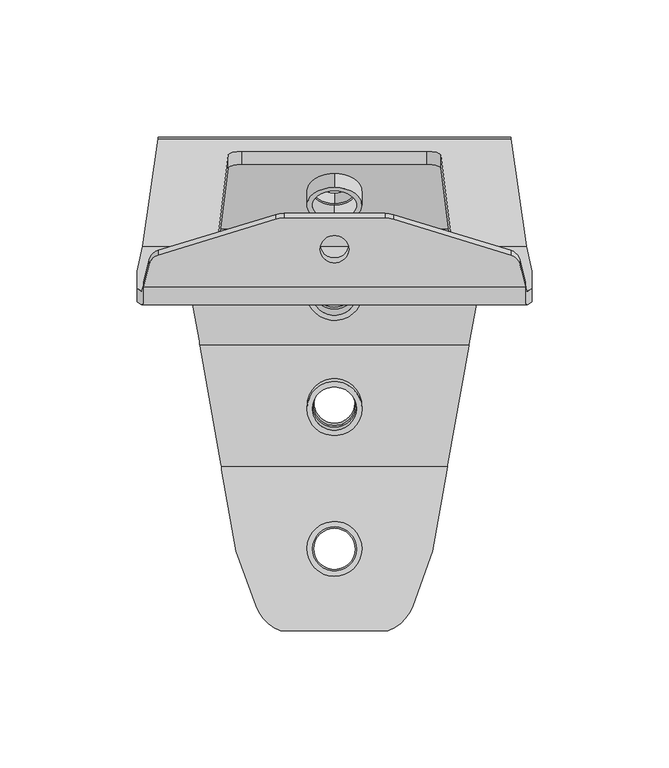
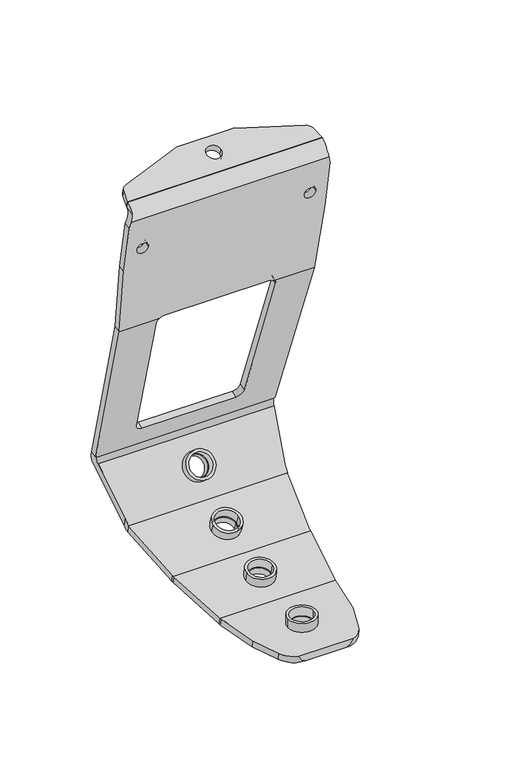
"""IFC4 building model written with IfcOpenShell, lengths in millimetres: proxy geometry, d&b U-Series U3 Vertical Bracket : d&b U-Series U3 Vertical Bracket."""

from ifc_helpers import new_model, si_unit, point, frame, frame_2d, origin, place, context, project, spatial, polyline, circle_curve, ellipse_curve, trimmed, segment, composite_curve, outline, extrude, source, transform, mapped, element, save
from ifc_brep_helpers import plane_surface, cylinder_surface, revolved_surface, advanced_brep


def communication_devices_d0d5bee1(model_context):
    return source(origin(), model_context, "Body", "SolidModel", [
        extrude(outline(composite_curve([segment(trimmed(circle_curve(frame_2d((0.0, -5.0)), 5.0), [point((4.8756643, -6.1081056))], [point((1.5385005, -9.7574169))], False, "CARTESIAN"), True, "CONTINUOUS"), segment(polyline([(1.5385005, -9.7574169), (-41.2545364, -23.5962514)]), True, "CONTINUOUS"), segment(trimmed(circle_curve(frame_2d((-44.3315373, -14.0814173)), 10.0), [point((-41.2545364, -23.5962514))], [point((-44.3315373, -24.0814174))], False, "CARTESIAN"), True, "CONTINUOUS"), segment(polyline([(-44.3315373, -24.0814174), (-81.1780379, -24.0814174)]), True, "CONTINUOUS"), segment(trimmed(circle_curve(frame_2d((-81.1780379, -14.0814173)), 10.0), [point((-81.1780379, -24.0814174))], [point((-84.2550388, -23.5962514))], False, "CARTESIAN"), True, "CONTINUOUS"), segment(polyline([(-84.2550388, -23.5962514), (-127.0480757, -9.7574169)]), True, "CONTINUOUS"), segment(trimmed(circle_curve(frame_2d((-125.5095752, -5.0)), 5.0), [point((-127.0480757, -9.7574169))], [point((-130.3852395, -6.1081056))], False, "CARTESIAN"), True, "CONTINUOUS"), segment(polyline([(-130.3852395, -6.1081056), (-132.3478965, 2.527585), (6.8383213, 2.527585), (4.8756643, -6.1081056)]), True, "CONTINUOUS")], self_intersect=False), holes=[composite_curve([segment(trimmed(circle_curve(frame_2d((-62.7547876, -12.0578535)), 5.25), [point((-57.5047876, -12.0578535))], [point((-68.0047876, -12.0578535))], True, "CARTESIAN"), True, "CONTINUOUS"), segment(trimmed(circle_curve(frame_2d((-62.7547876, -12.0578535)), 5.25), [point((-68.0047876, -12.0578535))], [point((-57.5047876, -12.0578535))], True, "CARTESIAN"), True, "CONTINUOUS")], self_intersect=False)]), frame((-62.7547876, 122.097226, 54.0018563), z_axis=(0.0, -0.3417216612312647, 0.9398012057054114), x_axis=(-1.0, 0.0, 0.0)), (0.0, 0.0, 1.0), 5.0),
        advanced_brep(
        [(41.1821269, 53.0970843, -232.7908637), (-41.1821269, 53.0970843, -232.7908637), (-41.2598718, 53.9586794, -232.6389413), (-49.0622799, 97.4134332, -224.9766957), (-49.1400247, 98.2750283, -224.8247733), (49.1400247, 98.2750283, -224.8247733), (49.0622799, 97.4134332, -224.9766957), (41.2598718, 53.9586794, -232.6389413), (7.5, 75.7127085, -228.803119), (-7.5, 75.7127085, -228.803119), (-49.2165885, 99.0971528, -224.5255444), (-56.8594472, 139.7133091, -209.7424725), (-57.1198307, 142.2312079, -208.8260323), (57.1198307, 142.2312079, -208.8260323), (56.8594472, 139.7133091, -209.7424725), (49.2165885, 99.0971528, -224.5255444), (-7.4839243, 119.4272445, -217.1259962), (7.4839263, 119.2065263, -217.206331), (-57.3223731, 143.9535521, -206.7734224), (-63.6653039, 170.2363075, -175.4508543), (63.6653039, 170.2363075, -175.4508543), (57.3223731, 143.9535521, -206.7734224), (0.0, 161.8211814, -185.479611), (0.0, 152.1793673, -196.9702776), (-64.3689642, 172.0864282, -165.9328082), (64.3689642, 172.0864282, -165.9328082), (-69.9756834, 132.8787164, -45.263879), (-41.501088, 132.8787164, -45.263879), (-42.8003682, 133.9735247, -48.6333526), (-38.8273396, 165.904901, -146.9080237), (-33.8234974, 167.4511733, -151.6669605), (33.8234974, 167.4511733, -151.6669605), (38.8273396, 165.904901, -146.9080237), (42.807065, 133.9197021, -48.4677035), (41.5029675, 132.8787164, -45.263879), (69.9756834, 132.8787164, -45.263879), (-70.7531987, 116.5107486, 47.563479), (70.7531987, 116.5107486, 47.563479), (72.0, 117.4297102, 42.351789), (72.0, 123.7360763, 6.5866096), (37.8040599, 132.5921333, -43.6385858), (-37.8035084, 132.5921333, -43.6385858), (-72.0, 123.7360763, 6.5866096), (-72.0, 117.4297102, 42.351789), (-55.85, 121.1313536, 21.3587259), (-64.15, 121.1313536, 21.3587259), (55.85, 121.1313536, 21.3587259), (64.15, 121.1313536, 21.3587259), (-69.5931089, 119.7246867, 53.130183), (69.5931089, 119.7246867, 53.130183), (69.5931089, 118.014586, 57.8286461), (-69.5931089, 118.014586, 57.8286461), (-69.5931089, 112.008297, 51.7695753), (-70.7531987, 111.5867099, 46.6952381), (70.7531987, 111.5867099, 46.6952381), (69.5931089, 112.008297, 51.7695753), (-72.0, 112.5056714, 41.4835481), (-72.0, 118.8120375, 5.7183687), (-69.9756834, 127.9546776, -46.1321199), (-69.9600814, 128.0153909, -46.4764422), (-41.1495998, 128.0153909, -46.4764422), (-37.8035084, 127.7901179, -45.1988553), (37.8040599, 127.7901179, -45.1988553), (41.1513049, 128.0153909, -46.4764422), (69.9600814, 128.0153909, -46.4764422), (69.9756834, 127.9546776, -46.1321199), (72.0, 118.8120375, 5.7183687), (72.0, 112.5056714, 41.4835481), (-64.15, 116.2073149, 20.490485), (-55.85, 116.2073149, 20.490485), (64.15, 116.2073149, 20.490485), (55.85, 116.2073149, 20.490485), (-63.3663002, 167.3311456, -167.4778932), (63.3663002, 167.3311456, -167.4778932), (63.3464959, 167.1139981, -166.8095818), (64.3689642, 167.1139981, -166.8095818), (42.807065, 129.1644195, -50.0127884), (38.8273396, 161.1496184, -148.4531087), (33.8234974, 162.6958907, -153.2120454), (-33.8234974, 162.6958907, -153.2120454), (-38.8273396, 161.1496184, -148.4531087), (-42.8003682, 129.2182421, -50.1784375), (-64.3689642, 167.1139981, -166.8095818), (-63.3464959, 167.1139981, -166.8095818), (-63.0144701, 166.4060853, -172.2369162), (63.0144701, 166.4060853, -172.2369162), (-57.3223731, 142.8201441, -200.3455463), (-56.9039648, 139.2621578, -204.5857893), (56.9039648, 139.2621578, -204.5857893), (57.3223731, 142.8201441, -200.3455463), (0.0, 148.349145, -193.7563396), (0.0, 157.9909592, -182.2656729), (-56.8594472, 138.8316742, -204.7424725), (-49.2165885, 98.2155179, -219.5255444), (-49.1011523, 96.9759898, -219.9766957), (49.1011523, 96.9759898, -219.9766957), (49.2165885, 98.2155179, -219.5255444), (56.8594472, 138.8316742, -204.7424725), (7.4839263, 117.4964256, -212.5078679), (-7.4839243, 117.7171437, -212.4275331), (-49.0622799, 96.5451923, -220.052657), (-41.2598718, 53.0904385, -227.7149025), (-41.2209994, 52.6596409, -227.7908637), (41.2209994, 52.6596409, -227.7908637), (41.2598718, 53.0904385, -227.7149025), (49.0622799, 96.5451923, -220.052657), (-7.5, 74.8444676, -223.8790802), (7.5, 74.8444676, -223.8790802), (-41.1055632, 51.3405627, -227.7908637), (-35.8394989, 21.5592844, -227.7908637), (-28.6219344, 1.7291891, -227.7908637), (-19.5813606, -7.3403591, -227.7908637), (19.5813606, -7.3403591, -227.7908637), (28.6219344, 1.7291891, -227.7908637), (35.8394989, 21.5592844, -227.7908637), (41.1055632, 51.3405627, -227.7908637), (-7.4839263, 22.6268699, -227.7908637), (7.4839243, 22.3919865, -227.7908637), (-14.5521077, -7.3403591, -232.7908637), (14.5521077, -7.3403591, -232.7908637), (41.1055632, 52.2221976, -232.7908637), (35.8394989, 22.4409193, -232.7908637), (28.6219344, 2.610824, -232.7908637), (-28.6219344, 2.610824, -232.7908637), (-35.8394989, 22.4409193, -232.7908637), (-41.1055632, 52.2221976, -232.7908637), (7.4839243, 22.3919865, -232.7908637), (-7.4839263, 22.6268699, -232.7908637)],
        [
            (0, 1),
            (1, 2),
            (2, 3),
            (3, 4),
            (4, 5),
            (5, 6),
            (6, 7),
            (7, 0),
            (8, 9, circle_curve(frame((0.0, 75.7127085, -228.803119), z_axis=(0.0, -0.17364817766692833, 0.9848077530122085), x_axis=(1.0, 0.0, 0.0)), 7.5)),
            (9, 8, circle_curve(frame((0.0, 75.7127085, -228.803119), z_axis=(0.0, -0.17364817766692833, 0.9848077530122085), x_axis=(1.0, 0.0, 0.0)), 7.5)),
            (4, 10),
            (10, 11),
            (11, 12),
            (12, 13),
            (13, 14),
            (14, 15),
            (15, 5),
            (16, 17, circle_curve(frame((0.0, 119.3168262, -217.1661852), z_axis=(0.0, -0.3420201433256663, 0.9396926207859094), x_axis=(-0.9998772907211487, 0.014720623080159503, 0.005357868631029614)), 7.4848467)),
            (17, 16, circle_curve(frame((0.0, 119.3168262, -217.1661852), z_axis=(0.0, -0.3420201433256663, 0.9396926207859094), x_axis=(-0.9998772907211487, 0.014720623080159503, 0.005357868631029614)), 7.4848467)),
            (12, 18),
            (18, 19),
            (19, 20),
            (20, 21),
            (21, 13),
            (22, 23, circle_curve(frame((0.0, 157.0002743, -191.2249443), z_axis=(0.0, -0.7660444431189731, 0.642787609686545), x_axis=(0.0, 0.6427876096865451, 0.7660444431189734)), 7.5)),
            (23, 22, circle_curve(frame((0.0, 157.0002743, -191.2249443), z_axis=(0.0, -0.7660444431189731, 0.642787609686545), x_axis=(0.0, 0.6427876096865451, 0.7660444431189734)), 7.5)),
            (19, 24, ellipse_curve(frame((-62.3636363, 162.575863, -169.0229782), z_axis=(0.9801059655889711, 0.19545964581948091, 0.03446480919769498), x_axis=(0.19847492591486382, -0.965215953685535, -0.17019361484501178)), 10.2029784, 10.0)),
            (24, 25),
            (25, 20, ellipse_curve(frame((62.3636363, 162.575863, -169.0229782), z_axis=(-0.9801059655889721, 0.1954596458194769, 0.03446480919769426), x_axis=(0.19847492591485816, 0.9652159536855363, 0.17019361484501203)), 10.2029784, 10.0)),
            (24, 26),
            (26, 27),
            (27, 28, circle_curve(frame((-37.8035084, 133.9187734, -48.4648455), z_axis=(0.0, -0.9510565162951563, -0.30901699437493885), x_axis=(0.0, -0.3090169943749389, 0.9510565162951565)), 5.0)),
            (28, 29),
            (29, 30, circle_curve(frame((-33.8234974, 165.904901, -146.9080237), z_axis=(0.0, -0.9510565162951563, -0.30901699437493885), x_axis=(0.0, -0.3090169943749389, 0.9510565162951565)), 5.0038422)),
            (30, 31),
            (31, 32, circle_curve(frame((33.8234974, 165.904901, -146.9080237), z_axis=(0.0, -0.9510565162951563, -0.30901699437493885), x_axis=(0.0, -0.3090169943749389, 0.9510565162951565)), 5.0038422)),
            (32, 33),
            (33, 34, circle_curve(frame((37.8040599, 133.9197021, -48.4677035), z_axis=(0.0, -0.9510565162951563, -0.30901699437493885), x_axis=(0.0, -0.3090169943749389, 0.9510565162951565)), 5.0030051)),
            (34, 35),
            (35, 25),
            (36, 37),
            (37, 38),
            (38, 39),
            (39, 35),
            (34, 40, ellipse_curve(frame((37.8040599, 133.4694339, -48.6140045), z_axis=(0.0, -0.9848077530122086, -0.17364817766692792), x_axis=(0.0, -0.17364817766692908, 0.9848077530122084)), 5.0521725, 5.0030051)),
            (40, 41),
            (41, 27, ellipse_curve(frame((-37.8035084, 133.4689069, -48.611016), z_axis=(0.0, -0.9848077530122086, -0.17364817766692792), x_axis=(0.0, -0.17364817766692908, 0.9848077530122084)), 5.0491379, 5.0)),
            (26, 42),
            (42, 43),
            (43, 36),
            (44, 45, circle_curve(frame((-60.0, 121.1313536, 21.3587259), z_axis=(0.0, -0.9848077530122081, -0.1736481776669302), x_axis=(1.0, 0.0, 0.0)), 4.15)),
            (45, 44, circle_curve(frame((-60.0, 121.1313536, 21.3587259), z_axis=(0.0, -0.9848077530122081, -0.1736481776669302), x_axis=(1.0, 0.0, 0.0)), 4.15)),
            (46, 47, circle_curve(frame((60.0, 121.1313536, 21.3587259), z_axis=(0.0, -0.9848077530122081, -0.1736481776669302), x_axis=(-1.0, 0.0, 0.0)), 4.15)),
            (47, 46, circle_curve(frame((60.0, 121.1313536, 21.3587259), z_axis=(0.0, -0.9848077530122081, -0.1736481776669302), x_axis=(-1.0, 0.0, 0.0)), 4.15)),
            (36, 48, ellipse_curve(frame((-70.7531987, 121.4347874, 48.4317199), z_axis=(-0.9733513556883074, -0.03982080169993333, 0.22583498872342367), x_axis=(-0.22931885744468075, 0.16902068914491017, -0.9585639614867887)), 5.1368912, 5.0)),
            (48, 49),
            (49, 37, ellipse_curve(frame((70.7531987, 121.4347874, 48.4317199), z_axis=(0.9733513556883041, -0.039820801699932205, 0.22583498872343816), x_axis=(-0.22931885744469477, -0.16902068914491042, 0.9585639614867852)), 5.1368912, 5.0)),
            (50, 51),
            (51, 52, circle_curve(frame((-69.5931089, 121.4347874, 48.4317199), z_axis=(1.0, 0.0, 0.0), x_axis=(0.0, 0.9848077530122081, 0.1736481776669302)), 10.0)),
            (52, 53, ellipse_curve(frame((-70.7531987, 121.4347874, 48.4317199), z_axis=(0.9733513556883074, 0.03982080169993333, -0.22583498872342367), x_axis=(0.22931885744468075, -0.16902068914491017, 0.9585639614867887)), 10.2737824, 10.0)),
            (53, 54),
            (54, 55, ellipse_curve(frame((70.7531987, 121.4347874, 48.4317199), z_axis=(-0.9733513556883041, 0.039820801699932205, -0.22583498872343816), x_axis=(0.22931885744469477, 0.16902068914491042, -0.9585639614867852)), 10.2737824, 10.0)),
            (55, 50, circle_curve(frame((69.5931089, 121.4347874, 48.4317199), z_axis=(-1.0, 0.0, 0.0), x_axis=(0.0, 0.9848077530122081, 0.1736481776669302)), 10.0)),
            (53, 56),
            (56, 57),
            (57, 58),
            (58, 59),
            (59, 60),
            (60, 61, ellipse_curve(frame((-37.8035084, 128.6668915, -50.1712854), z_axis=(0.0, 0.9848077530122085, 0.17364817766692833), x_axis=(0.0, -0.17364817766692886, 0.9848077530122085)), 5.0491379, 5.0)),
            (61, 62),
            (62, 63, ellipse_curve(frame((37.8040599, 128.6674184, -50.1742739), z_axis=(0.0, 0.9848077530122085, 0.17364817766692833), x_axis=(0.0, -0.17364817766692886, 0.9848077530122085)), 5.0521725, 5.0030051)),
            (63, 64),
            (64, 65),
            (65, 66),
            (66, 67),
            (67, 54),
            (68, 69, circle_curve(frame((-60.0, 116.2073149, 20.490485), z_axis=(0.0, 0.9848077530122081, 0.1736481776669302), x_axis=(1.0, 0.0, 0.0)), 4.15)),
            (69, 68, circle_curve(frame((-60.0, 116.2073149, 20.490485), z_axis=(0.0, 0.9848077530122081, 0.1736481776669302), x_axis=(1.0, 0.0, 0.0)), 4.15)),
            (70, 71, circle_curve(frame((60.0, 116.2073149, 20.490485), z_axis=(0.0, 0.9848077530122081, 0.1736481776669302), x_axis=(-1.0, 0.0, 0.0)), 4.15)),
            (71, 70, circle_curve(frame((60.0, 116.2073149, 20.490485), z_axis=(0.0, 0.9848077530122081, 0.1736481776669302), x_axis=(-1.0, 0.0, 0.0)), 4.15)),
            (72, 73),
            (73, 74),
            (74, 75),
            (75, 64),
            (63, 76, circle_curve(frame((37.8040599, 129.1644195, -50.0127884), z_axis=(0.0, 0.9510565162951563, 0.30901699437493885), x_axis=(0.0, -0.3090169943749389, 0.9510565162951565)), 5.0030051)),
            (76, 77),
            (77, 78, circle_curve(frame((33.8234974, 161.1496184, -148.4531087), z_axis=(0.0, 0.9510565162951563, 0.30901699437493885), x_axis=(0.0, -0.3090169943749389, 0.9510565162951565)), 5.0038422)),
            (78, 79),
            (79, 80, circle_curve(frame((-33.8234974, 161.1496184, -148.4531087), z_axis=(0.0, 0.9510565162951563, 0.30901699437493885), x_axis=(0.0, -0.3090169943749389, 0.9510565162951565)), 5.0038422)),
            (80, 81),
            (81, 60, circle_curve(frame((-37.8035084, 129.1634909, -50.0099304), z_axis=(0.0, 0.9510565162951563, 0.30901699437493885), x_axis=(0.0, -0.3090169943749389, 0.9510565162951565)), 5.0)),
            (59, 82),
            (82, 83),
            (83, 72),
            (72, 84, ellipse_curve(frame((-62.3636363, 162.575863, -169.0229782), z_axis=(-0.9801059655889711, -0.19545964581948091, -0.03446480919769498), x_axis=(-0.19847492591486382, 0.965215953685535, 0.17019361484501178)), 5.1014892, 5.0)),
            (84, 85),
            (85, 73, ellipse_curve(frame((62.3636363, 162.575863, -169.0229782), z_axis=(0.9801059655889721, -0.1954596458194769, -0.03446480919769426), x_axis=(-0.19847492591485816, -0.9652159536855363, -0.17019361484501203)), 5.1014892, 5.0)),
            (84, 86),
            (86, 87),
            (87, 88),
            (88, 89),
            (89, 85),
            (90, 91, circle_curve(frame((0.0, 153.1700521, -188.0110062), z_axis=(0.0, 0.7660444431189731, -0.642787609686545), x_axis=(0.0, 0.6427876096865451, 0.7660444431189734)), 7.5)),
            (91, 90, circle_curve(frame((0.0, 153.1700521, -188.0110062), z_axis=(0.0, 0.7660444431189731, -0.642787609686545), x_axis=(0.0, 0.6427876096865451, 0.7660444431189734)), 7.5)),
            (87, 92),
            (92, 93),
            (93, 94),
            (94, 95),
            (95, 96),
            (96, 97),
            (97, 88),
            (98, 99, circle_curve(frame((0.0, 117.6067255, -212.4677221), z_axis=(0.0, 0.3420201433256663, -0.9396926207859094), x_axis=(-0.9998772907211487, 0.014720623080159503, 0.005357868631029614)), 7.4848467)),
            (99, 98, circle_curve(frame((0.0, 117.6067255, -212.4677221), z_axis=(0.0, 0.3420201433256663, -0.9396926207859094), x_axis=(-0.9998772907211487, 0.014720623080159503, 0.005357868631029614)), 7.4848467)),
            (94, 100),
            (100, 101),
            (101, 102),
            (102, 103),
            (103, 104),
            (104, 105),
            (105, 95),
            (106, 107, circle_curve(frame((0.0, 74.8444676, -223.8790802), z_axis=(0.0, 0.17364817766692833, -0.9848077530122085), x_axis=(1.0, 0.0, 0.0)), 7.5)),
            (107, 106, circle_curve(frame((0.0, 74.8444676, -223.8790802), z_axis=(0.0, 0.17364817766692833, -0.9848077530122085), x_axis=(1.0, 0.0, 0.0)), 7.5)),
            (102, 108),
            (108, 109),
            (109, 110),
            (110, 111, ellipse_curve(frame((-14.5521077, 7.0094052, -227.7908637), z_axis=(0.0, 0.0, 1.0), x_axis=(0.0, -0.9999999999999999, 0.0)), 15.2313992, 15.0)),
            (111, 112),
            (112, 113, ellipse_curve(frame((14.5521077, 7.0094052, -227.7908637), z_axis=(0.0, 0.0, 1.0), x_axis=(0.0, -0.9999999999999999, 0.0)), 15.2313992, 15.0)),
            (113, 114),
            (114, 115),
            (115, 103),
            (116, 117, circle_curve(frame((0.0, 22.5094912, -227.7908637), z_axis=(0.0, 0.0, -1.0), x_axis=(0.999877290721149, -0.015665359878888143, 0.0)), 7.4848467)),
            (117, 116, circle_curve(frame((0.0, 22.5094912, -227.7908637), z_axis=(0.0, 0.0, -1.0), x_axis=(0.999877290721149, -0.015665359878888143, 0.0)), 7.4848467)),
            (111, 118, ellipse_curve(frame((-14.5521077, -7.3403591, -146.4093065), z_axis=(0.0, -1.0, 0.0), x_axis=(0.0, 0.0, 1.0)), 86.3815572, 15.0)),
            (118, 119),
            (119, 112, ellipse_curve(frame((14.5521077, -7.3403591, -146.4093065), z_axis=(0.0, -1.0, 0.0), x_axis=(0.0, 0.0, 1.0)), 86.3815572, 15.0)),
            (0, 120),
            (120, 121),
            (121, 122),
            (122, 119, ellipse_curve(frame((14.5521077, 7.8910401, -232.7908637), z_axis=(0.0, 0.0, -1.0), x_axis=(0.0, -1.0, 0.0)), 15.2313992, 15.0)),
            (118, 123, ellipse_curve(frame((-14.5521077, 7.8910401, -232.7908637), z_axis=(0.0, 0.0, -1.0), x_axis=(0.0, -1.0, 0.0)), 15.2313992, 15.0)),
            (123, 124),
            (124, 125),
            (125, 1),
            (126, 127, circle_curve(frame((0.0, 22.5094912, -232.7908637), z_axis=(0.0, 0.0, 1.0), x_axis=(0.999877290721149, -0.015665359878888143, 0.0)), 7.4848467)),
            (127, 126, circle_curve(frame((0.0, 22.5094912, -232.7908637), z_axis=(0.0, 0.0, 1.0), x_axis=(0.999877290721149, -0.015665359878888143, 0.0)), 7.4848467)),
            (74, 25),
            (25, 75),
            (24, 83),
            (82, 24),
            (122, 113),
            (121, 114),
            (120, 115),
            (7, 104),
            (6, 105),
            (15, 96),
            (14, 97),
            (21, 89),
            (108, 125),
            (124, 109),
            (123, 110),
            (92, 11),
            (10, 93),
            (3, 100),
            (2, 101),
            (106, 9),
            (8, 107),
            (116, 127),
            (126, 117),
            (98, 17),
            (16, 99),
            (56, 43),
            (42, 57),
            (26, 58),
            (50, 49),
            (48, 51),
            (48, 52),
            (18, 86),
            (35, 65),
            (39, 66),
            (38, 67),
            (49, 55),
            (90, 23),
            (22, 91),
            (79, 30),
            (29, 80),
            (28, 81),
            (41, 61),
            (40, 62),
            (33, 76),
            (32, 77),
            (31, 78),
            (68, 45),
            (44, 69),
            (70, 47),
            (46, 71),
        ],
        [
            plane_surface(frame((80.0, 53.0970843, -232.7908637), z_axis=(0.0, 0.17364817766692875, -0.9848077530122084), x_axis=(-1.0, 0.0, 0.0))),
            plane_surface(frame((80.0, 98.2750283, -224.8247733), z_axis=(0.0, 0.3420201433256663, -0.9396926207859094), x_axis=(-1.0, 0.0, 0.0))),
            plane_surface(frame((80.0, 142.2312079, -208.8260323), z_axis=(0.0, 0.7660444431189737, -0.6427876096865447), x_axis=(-1.0, 0.0, 0.0))),
            cylinder_surface(frame((-80.0, 162.575863, -169.0229782), z_axis=(1.0, 0.0, 0.0), x_axis=(0.0, 0.9848077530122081, 0.1736481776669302)), 10.0),
            plane_surface(frame((80.0, 172.0864282, -165.9328082), z_axis=(0.0, 0.9510565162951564, 0.30901699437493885), x_axis=(-1.0, 0.0, 0.0))),
            plane_surface(frame((80.0, 132.8787164, -45.263879), z_axis=(0.0, 0.9848077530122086, 0.17364817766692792), x_axis=(-1.0, 0.0, 0.0))),
            revolved_surface(polyline([(-71.93118472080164, 126.35882616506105, 49.29996078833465), (71.9311847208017, 126.35882616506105, 49.29996078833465)]), (-80.0, 121.4347874, 48.4317199), (-1.0, 0.0, 0.0)),
            cylinder_surface(frame((-80.0, 121.4347874, 48.4317199), z_axis=(1.0, 0.0, 0.0), x_axis=(0.0, 0.9848077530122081, 0.1736481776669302)), 10.0),
            plane_surface(frame((80.0, 111.5867099, 46.6952381), z_axis=(0.0, -0.9848077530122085, -0.17364817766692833), x_axis=(-1.0, 0.0, 0.0))),
            plane_surface(frame((80.0, 128.0153909, -46.4764422), z_axis=(0.0, -0.9510565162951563, -0.30901699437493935), x_axis=(-1.0, 0.0, 0.0))),
            revolved_surface(polyline([(-63.37615399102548, 167.49990176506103, -168.15473731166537), (63.37615399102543, 167.49990176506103, -168.15473731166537)]), (-80.0, 162.575863, -169.0229782), (-1.0, 0.0, 0.0)),
            plane_surface(frame((80.0, 166.4060853, -172.2369162), z_axis=(0.0, -0.7660444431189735, 0.6427876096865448), x_axis=(-1.0, 0.0, 0.0))),
            plane_surface(frame((80.0, 139.2621578, -204.5857893), z_axis=(0.0, -0.342020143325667, 0.9396926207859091), x_axis=(-1.0, 0.0, 0.0))),
            plane_surface(frame((80.0, 96.9759898, -219.9766957), z_axis=(0.0, -0.17364817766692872, 0.9848077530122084), x_axis=(-1.0, 0.0, 0.0))),
            plane_surface(frame((80.0, 52.6596409, -227.7908637), z_axis=(0.0, 0.0, 1.0), x_axis=(-1.0, 0.0, 0.0))),
            plane_surface(frame((80.0, -7.3403591, -227.7908637), z_axis=(0.0, -1.0, 0.0), x_axis=(-1.0, 0.0, 0.0))),
            plane_surface(frame((80.0, -7.3403591, -232.7908637), z_axis=(0.0, 0.0, -1.0), x_axis=(-1.0, 0.0, 0.0))),
            plane_surface(frame((41.2598718, 46.1132463, -188.145279), z_axis=(0.0, 0.17364817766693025, -0.9848077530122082), x_axis=(-0.08851400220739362, -0.9809423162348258, -0.17296659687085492))),
            cylinder_surface(frame((14.5521077, 1.408736, -196.0278903), z_axis=(0.0, -0.1736481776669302, 0.9848077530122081), x_axis=(1.0, 0.0, 0.0)), 15.0),
            plane_surface(frame((28.6219344, 6.1345602, -252.7749645), z_axis=(0.9379884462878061, -0.3413998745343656, -0.06019800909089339), x_axis=(0.0, -0.1736481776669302, 0.9848077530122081))),
            plane_surface(frame((35.8394989, 25.3667049, -249.3838185), z_axis=(0.9842600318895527, -0.17404144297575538, -0.030688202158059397), x_axis=(0.0, -0.1736481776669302, 0.9848077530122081))),
            plane_surface(frame((41.1055632, 54.2499678, -244.2909199), z_axis=(0.9960749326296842, -0.08716927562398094, -0.01537029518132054), x_axis=(0.0, -0.1736481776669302, 0.9848077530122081))),
            plane_surface(frame((41.2598718, 55.9600685, -243.989383), z_axis=(0.9847238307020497, -0.17147812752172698, -0.03023622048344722), x_axis=(0.0, -0.1736481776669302, 0.9848077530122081))),
            plane_surface(frame((49.0622799, 99.4148223, -236.3271375), z_axis=(0.9960749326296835, -0.08716927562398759, -0.01537029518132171), x_axis=(0.0, -0.1736481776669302, 0.9848077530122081))),
            plane_surface(frame((49.2165885, 101.124923, -236.0256006), z_axis=(0.9842600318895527, -0.17404144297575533, -0.030688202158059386), x_axis=(0.0, -0.1736481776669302, 0.9848077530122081))),
            plane_surface(frame((56.8594472, 143.0444065, -228.6340647), z_axis=(0.9951668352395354, -0.09670676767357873, -0.017052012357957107), x_axis=(0.0, -0.1736481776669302, 0.9848077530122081))),
            plane_surface(frame((57.3223731, 147.664528, -227.8194126), z_axis=(0.9801059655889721, -0.1954596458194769, -0.03446480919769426), x_axis=(0.0, -0.1736481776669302, 0.9848077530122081))),
            plane_surface(frame((-41.1055632, 54.2499678, -244.2909199), z_axis=(-0.984260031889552, -0.17404144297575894, -0.03068820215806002), x_axis=(0.0, -0.1736481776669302, 0.9848077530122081))),
            plane_surface(frame((-35.8394989, 25.3667049, -249.3838185), z_axis=(-0.9379884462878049, -0.3413998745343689, -0.06019800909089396), x_axis=(0.0, -0.1736481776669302, 0.9848077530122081))),
            cylinder_surface(frame((-14.5521077, -32.1564861, -5.6700561), z_axis=(0.0, -0.1736481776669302, 0.9848077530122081), x_axis=(-1.0, 0.0, 0.0)), 15.0),
            plane_surface(frame((-56.8594472, 143.0444065, -228.6340647), z_axis=(-0.984260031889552, -0.17404144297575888, -0.030688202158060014), x_axis=(0.0, -0.1736481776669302, 0.9848077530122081))),
            plane_surface(frame((-49.2165885, 101.124923, -236.0256006), z_axis=(-0.9960749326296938, -0.08716927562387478, -0.01537029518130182), x_axis=(0.0, -0.1736481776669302, 0.9848077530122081))),
            plane_surface(frame((-49.0622799, 99.4148223, -236.3271375), z_axis=(-0.9847238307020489, -0.17147812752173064, -0.030236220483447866), x_axis=(0.0, -0.1736481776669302, 0.9848077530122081))),
            plane_surface(frame((-41.2598718, 55.9600685, -243.989383), z_axis=(-0.9960749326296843, -0.08716927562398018, -0.015370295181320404), x_axis=(0.0, -0.1736481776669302, 0.9848077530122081))),
            revolved_surface(polyline([(7.5, 75.7127084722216, -228.8031190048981), (7.5, 74.84446757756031, -223.87908020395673)]), (0.0, 73.9762267, -218.9550415), (0.0, 0.17364817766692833, -0.9848077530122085)),
            revolved_surface(polyline([(7.483928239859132, 22.39223838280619, -232.7908637), (7.483928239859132, 22.39223838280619, -227.7908637)]), (0.0, 22.5094912, -222.7908637), (0.0, 0.0, -1.0)),
            revolved_surface(polyline([(-7.483928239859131, 119.42700786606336, -217.1260823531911), (-7.483928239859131, 117.71690712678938, -212.42761918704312)]), (0.0, 115.8966248, -207.7692589), (0.0, 0.3420201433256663, -0.9396926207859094)),
            plane_surface(frame((-72.0, 184.2669181, 54.136992), z_axis=(-1.0, 0.0, 0.0), x_axis=(0.0, -0.9848077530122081, -0.1736481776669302))),
            plane_surface(frame((-72.0, 190.5732842, 18.3718126), z_axis=(-0.9992616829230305, 0.006671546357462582, -0.03783621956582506), x_axis=(0.0, -0.9848077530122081, -0.1736481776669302))),
            plane_surface(frame((-69.9756834, 199.7159243, -33.4786759), z_axis=(-0.9990058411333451, 0.007741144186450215, -0.043902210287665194), x_axis=(0.0, -0.9848077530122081, -0.1736481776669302))),
            plane_surface(frame((80.0, 119.7246867, 53.130183), z_axis=(0.0, 0.9396926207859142, 0.3420201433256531), x_axis=(-1.0, 0.0, 0.0))),
            plane_surface(frame((-69.5931089, 180.8354962, 73.5975528), z_axis=(-1.0, 0.0, 0.0), x_axis=(0.0, -0.9848077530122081, -0.1736481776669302))),
            plane_surface(frame((-69.5931089, 182.4929062, 64.1979136), z_axis=(-0.9733513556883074, -0.03982080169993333, 0.22583498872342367), x_axis=(0.0, -0.9848077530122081, -0.1736481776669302))),
            plane_surface(frame((-68.1591463, 200.3655248, -218.5268049), z_axis=(-0.9801059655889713, -0.19545964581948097, -0.034464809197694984), x_axis=(0.0, -0.1736481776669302, 0.9848077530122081))),
            plane_surface(frame((-57.3223731, 147.664528, -227.8194126), z_axis=(-0.9951668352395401, -0.09670676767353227, -0.017052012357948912), x_axis=(0.0, -0.1736481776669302, 0.9848077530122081))),
            plane_surface(frame((64.3689642, 221.5337837, -157.2139053), z_axis=(0.9990058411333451, 0.007741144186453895, -0.043902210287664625), x_axis=(0.0, -0.9848077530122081, -0.1736481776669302))),
            plane_surface(frame((69.9756834, 199.7159243, -33.4786759), z_axis=(0.9992616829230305, 0.006671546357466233, -0.037836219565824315), x_axis=(0.0, -0.9848077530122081, -0.1736481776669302))),
            plane_surface(frame((72.0, 190.5732842, 18.3718126), z_axis=(1.0, 0.0, 0.0), x_axis=(0.0, -0.9848077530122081, -0.1736481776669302))),
            plane_surface(frame((72.0, 184.2669181, 54.136992), z_axis=(0.9733513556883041, -0.039820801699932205, 0.22583498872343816), x_axis=(0.0, -0.9848077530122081, -0.1736481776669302))),
            plane_surface(frame((69.5931089, 182.4929062, 64.1979136), z_axis=(1.0, 0.0, 0.0), x_axis=(0.0, -0.9848077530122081, -0.1736481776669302))),
            revolved_surface(polyline([(0.0, 161.82118141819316, -185.4796109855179), (0.0, 157.99095915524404, -182.2656728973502)]), (0.0, 149.3398299, -184.7970682), (0.0, 0.7660444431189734, -0.6427876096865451)),
            revolved_surface(polyline([(-33.8234974, 164.35862873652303, -142.14908700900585), (-33.8234974, 159.60334612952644, -143.69417198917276)]), (-33.8234974, 156.3943358, -149.9981937), (0.0, 0.9510565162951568, 0.30901699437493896)),
            plane_surface(frame((-38.8273396, 175.4154662, -143.8178538), z_axis=(0.99926165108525, -0.011872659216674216, 0.036540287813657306), x_axis=(0.0, -0.9510565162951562, -0.30901699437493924))),
            revolved_surface(polyline([(-37.8035084, 132.59213331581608, -43.63858584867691), (-37.8035084, 126.45349512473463, -45.63315030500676)]), (-37.8035084, 124.4082083, -51.5550154), (0.0, 0.9510565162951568, 0.30901699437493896)),
            plane_surface(frame((-37.8035084, 141.8842536, -40.6193929), z_axis=(0.0, 0.30901699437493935, -0.9510565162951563), x_axis=(0.0, -0.9510565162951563, -0.30901699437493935))),
            revolved_surface(polyline([(37.8040599, 132.59213333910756, -43.63858581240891), (37.8040599, 126.45269173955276, -45.63341131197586)]), (37.8040599, 124.4091369, -51.5578734), (0.0, 0.9510565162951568, 0.30901699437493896)),
            plane_surface(frame((42.807065, 143.4302672, -45.3775335), z_axis=(-0.9992616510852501, -0.011872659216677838, 0.03654028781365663), x_axis=(0.0, -0.9510565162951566, -0.30901699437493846))),
            revolved_surface(polyline([(33.8234974, 164.35862873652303, -142.14908700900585), (33.8234974, 159.60334612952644, -143.69417198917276)]), (33.8234974, 156.3943358, -149.9981937), (0.0, 0.9510565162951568, 0.30901699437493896)),
            plane_surface(frame((33.8234974, 176.9617384, -148.5767905), z_axis=(0.0, -0.30901699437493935, 0.9510565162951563), x_axis=(0.0, -0.9510565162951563, -0.30901699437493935))),
            revolved_surface(polyline([(-55.85, 121.13135360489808, 21.35872587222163), (-55.85, 116.20731490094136, 20.49048499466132)]), (-60.0, 111.2832761, 19.6222441), (0.0, 0.9848077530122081, 0.1736481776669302)),
            revolved_surface(polyline([(55.85, 121.1313536, 21.3587259), (55.85, 116.20731489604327, 20.49048502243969)]), (60.0, 121.1313536, 21.3587259), (0.0, 0.9848077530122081, 0.1736481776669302)),
        ],
        [
            (0, [[1, 2, 3, 4, 5, 6, 7, 8], [9, 10]]),
            (1, [[-5, 11, 12, 13, 14, 15, 16, 17], [18, 19]]),
            (2, [[-14, 20, 21, 22, 23, 24], [25, 26]]),
            (3, [[-22, 27, 28, 29]]),
            (4, [[-28, 30, 31, 32, 33, 34, 35, 36, 37, 38, 39, 40]]),
            (5, [[41, 42, 43, 44, -39, 45, 46, 47, -31, 48, 49, 50], [51, 52], [53, 54]]),
            (6, [[-41, 55, 56, 57]]),
            (7, [[58, 59, 60, 61, 62, 63]]),
            (8, [[-61, 64, 65, 66, 67, 68, 69, 70, 71, 72, 73, 74, 75, 76], [77, 78], [79, 80]]),
            (9, [[81, 82, 83, 84, -72, 85, 86, 87, 88, 89, 90, 91, -68, 92, 93, 94]]),
            (10, [[-81, 95, 96, 97]]),
            (11, [[-96, 98, 99, 100, 101, 102], [103, 104]]),
            (12, [[-100, 105, 106, 107, 108, 109, 110, 111], [112, 113]]),
            (13, [[-108, 114, 115, 116, 117, 118, 119, 120], [121, 122]]),
            (14, [[-117, 123, 124, 125, 126, 127, 128, 129, 130, 131], [132, 133]]),
            (15, [[-127, 134, 135, 136]]),
            (16, [[-1, 137, 138, 139, 140, -135, 141, 142, 143, 144], [145, 146]]),
            (17, [[147, 148, -83]]),
            (17, [[149, -93, 150]]),
            (18, [[151, -128, -136, -140]]),
            (19, [[-151, -139, 152, -129]]),
            (20, [[-152, -138, 153, -130]]),
            (21, [[-153, -137, -8, 154, -118, -131]]),
            (22, [[-154, -7, 155, -119]]),
            (23, [[-155, -6, -17, 156, -109, -120]]),
            (24, [[-156, -16, 157, -110]]),
            (25, [[-157, -15, -24, 158, -101, -111]]),
            (26, [[-147, -82, -97, -102, -158, -23, -29]]),
            (27, [[159, -143, 160, -124]]),
            (28, [[-160, -142, 161, -125]]),
            (29, [[-161, -141, -134, -126]]),
            (30, [[162, -12, 163, -106]]),
            (31, [[-163, -11, -4, 164, -114, -107]]),
            (32, [[-164, -3, 165, -115]]),
            (33, [[-159, -123, -116, -165, -2, -144]]),
            (34, [[166, -9, 167, -121]]),
            (34, [[-166, -122, -167, -10]]),
            (35, [[168, -145, 169, -132]]),
            (35, [[-168, -133, -169, -146]]),
            (36, [[170, -18, 171, -112]]),
            (36, [[-170, -113, -171, -19]]),
            (37, [[172, -49, 173, -65]]),
            (38, [[-173, -48, 174, -66]]),
            (39, [[-174, -30, -150, -92, -67]]),
            (40, [[-58, 175, -56, 176]]),
            (41, [[177, -59, -176]]),
            (42, [[-172, -64, -60, -177, -55, -50]]),
            (43, [[-149, -27, -21, 178, -98, -95, -94]]),
            (44, [[-162, -105, -99, -178, -20, -13]]),
            (45, [[179, -73, -84, -148, -40]]),
            (46, [[-179, -44, 180, -74]]),
            (47, [[-180, -43, 181, -75]]),
            (48, [[-181, -42, -57, 182, -62, -76]]),
            (49, [[-182, -175, -63]]),
            (50, [[183, -25, 184, -103]]),
            (50, [[-183, -104, -184, -26]]),
            (51, [[185, -34, 186, -89]]),
            (52, [[-186, -33, 187, -90]]),
            (53, [[-187, -32, -47, 188, -69, -91]]),
            (54, [[-188, -46, 189, -70]]),
            (55, [[-189, -45, -38, 190, -85, -71]]),
            (56, [[-190, -37, 191, -86]]),
            (57, [[-191, -36, 192, -87]]),
            (58, [[-185, -88, -192, -35]]),
            (59, [[193, -51, 194, -77]]),
            (59, [[-193, -78, -194, -52]]),
            (60, [[195, -53, 196, -79]]),
            (60, [[-195, -80, -196, -54]]),
        ],
    ),
        extrude(outline(composite_curve([segment(trimmed(circle_curve(frame_2d((0.0, -10.0)), 10.0), [point((0.0, -20.0))], [point((0.0, 0.0))], False, "CARTESIAN"), True, "CONTINUOUS"), segment(trimmed(circle_curve(frame_2d((0.0, -10.0)), 10.0), [point((0.0, 0.0))], [point((0.0, -20.0))], False, "CARTESIAN"), True, "CONTINUOUS")], self_intersect=False), holes=[composite_curve([segment(trimmed(circle_curve(frame_2d((0.0, -10.0)), 8.0), [point((0.0, -18.0))], [point((0.0, -2.0))], True, "CARTESIAN"), True, "CONTINUOUS"), segment(trimmed(circle_curve(frame_2d((0.0, -10.0)), 8.0), [point((0.0, -2.0))], [point((0.0, -18.0))], True, "CARTESIAN"), True, "CONTINUOUS")], self_intersect=False)]), frame((0.0, 159.5979282, -180.3505618), z_axis=(0.0, -0.7660444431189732, 0.6427876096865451), x_axis=(1.0, 0.0, 0.0)), (0.0, 0.0, 1.0), 7.0),
        extrude(outline(composite_curve([segment(trimmed(circle_curve(frame_2d((0.0, -10.0)), 10.0), [point((1e-07, -20.0))], [point((0.0, 0.0))], False, "CARTESIAN"), True, "CONTINUOUS"), segment(trimmed(circle_curve(frame_2d((0.0, -10.0)), 10.0), [point((0.0, 0.0))], [point((1e-07, -20.0))], False, "CARTESIAN"), True, "CONTINUOUS")], self_intersect=False), holes=[composite_curve([segment(trimmed(circle_curve(frame_2d((0.0, -10.0)), 8.0), [point((0.0, -18.0))], [point((1e-07, -2.0))], True, "CARTESIAN"), True, "CONTINUOUS"), segment(trimmed(circle_curve(frame_2d((0.0, -10.0)), 8.0), [point((1e-07, -2.0))], [point((0.0, -18.0))], True, "CARTESIAN"), True, "CONTINUOUS")], self_intersect=False)]), frame((-9.9987729, 117.7539317, -212.4141434), z_axis=(0.0, -0.3420201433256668, 0.9396926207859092), x_axis=(0.015665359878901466, 0.9395773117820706, 0.3419781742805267)), (0.0, 0.0, 1.0), 7.0),
        extrude(outline(composite_curve([segment(trimmed(circle_curve(frame_2d((0.0, -10.0)), 10.0), [point((0.0, -20.0))], [point((0.0, 0.0))], False, "CARTESIAN"), True, "CONTINUOUS"), segment(trimmed(circle_curve(frame_2d((0.0, -10.0)), 10.0), [point((0.0, 0.0))], [point((0.0, -20.0))], False, "CARTESIAN"), True, "CONTINUOUS")], self_intersect=False), holes=[composite_curve([segment(trimmed(circle_curve(frame_2d((0.0, -10.0)), 8.0), [point((0.0, -18.0))], [point((0.0, -2.0))], True, "CARTESIAN"), True, "CONTINUOUS"), segment(trimmed(circle_curve(frame_2d((0.0, -10.0)), 8.0), [point((0.0, -2.0))], [point((0.0, -18.0))], True, "CARTESIAN"), True, "CONTINUOUS")], self_intersect=False)]), frame((10.0, 74.8444676, -223.8790802), z_axis=(0.0, -0.17364817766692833, 0.9848077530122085), x_axis=(0.0, -0.9848077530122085, -0.17364817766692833)), (0.0, 0.0, 1.0), 7.0),
        extrude(outline(composite_curve([segment(trimmed(circle_curve(frame_2d((0.0, 22.5094912)), 10.0), [point((-9.9987729, 22.6661448))], [point((9.9987729, 22.3528376))], False, "CARTESIAN"), True, "CONTINUOUS"), segment(trimmed(circle_curve(frame_2d((0.0, 22.5094912)), 10.0), [point((9.9987729, 22.3528376))], [point((-9.9987729, 22.6661448))], False, "CARTESIAN"), True, "CONTINUOUS")], self_intersect=False), holes=[composite_curve([segment(trimmed(circle_curve(frame_2d((0.0, 22.5094912)), 8.0), [point((-7.9990183, 22.634814))], [point((7.9990183, 22.3841683))], True, "CARTESIAN"), True, "CONTINUOUS"), segment(trimmed(circle_curve(frame_2d((0.0, 22.5094912)), 8.0), [point((7.9990183, 22.3841683))], [point((-7.9990183, 22.634814))], True, "CARTESIAN"), True, "CONTINUOUS")], self_intersect=False)]), frame((0.0, 0.0, -227.7908637), z_axis=(0.0, 0.0, 1.0), x_axis=(1.0, 0.0, 0.0)), (0.0, 0.0, 1.0), 7.0),
    ])


if __name__ == "__main__":
    model = new_model("IFC4")
    model_context = context("Model", 3, world=origin())
    ifc_project = project(units=[si_unit("LENGTHUNIT", "METRE", prefix="MILLI")], contexts=[model_context])
    site = spatial("IfcSite", under=ifc_project)
    building = spatial("IfcBuilding", under=site)
    placement = place(None, origin())
    communication_devices_shape = communication_devices_d0d5bee1(model_context)
    element("IfcBuildingElementProxy", 1, Name="d&b U-Series U3 Vertical Bracket : d&b U-Series U3 Vertical Bracket", ObjectType="d&b U-Series U3 Vertical Bracket : d&b U-Series U3 Vertical Bracket", at=placement, inside=building, context=model_context, shape_type="MappedRepresentation", body=[
        mapped(communication_devices_shape, transform((0.0, 0.0, 0.0), x_axis=(1.0, 0.0, 0.0), y_axis=(0.0, 1.0, 0.0), z_axis=(0.0, 0.0, 1.0))),
    ])
    save(model, "model.ifc")
